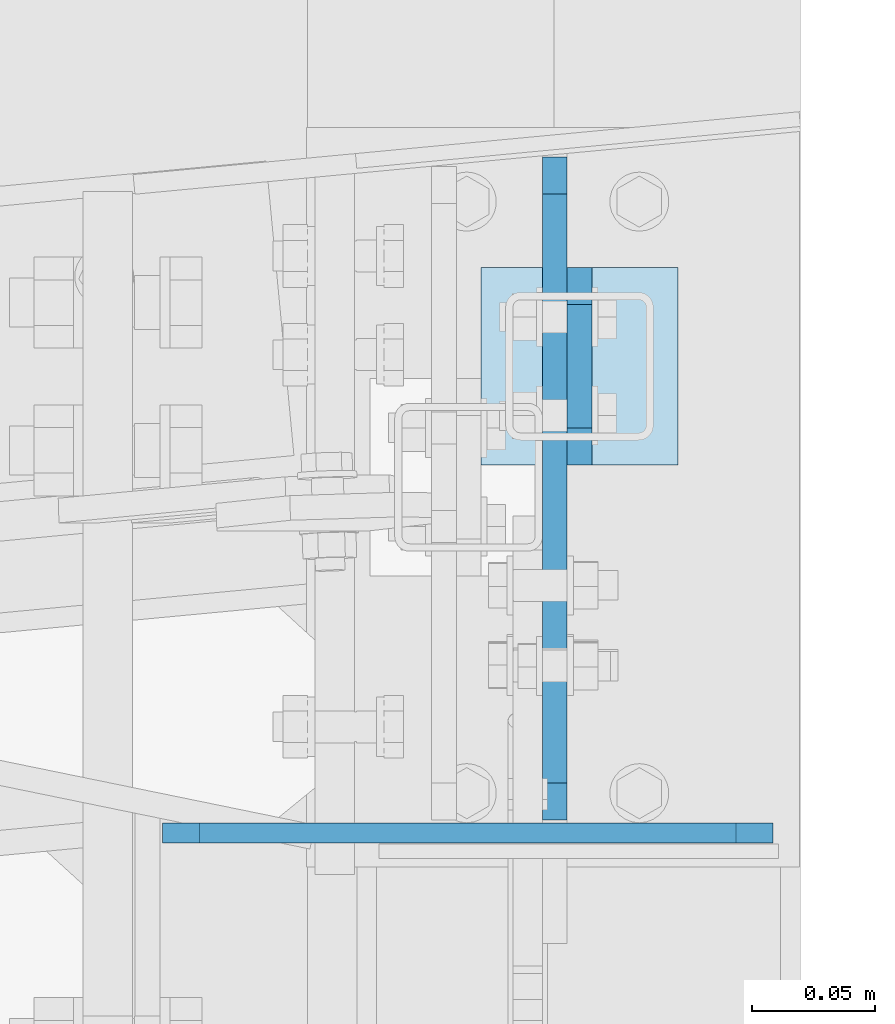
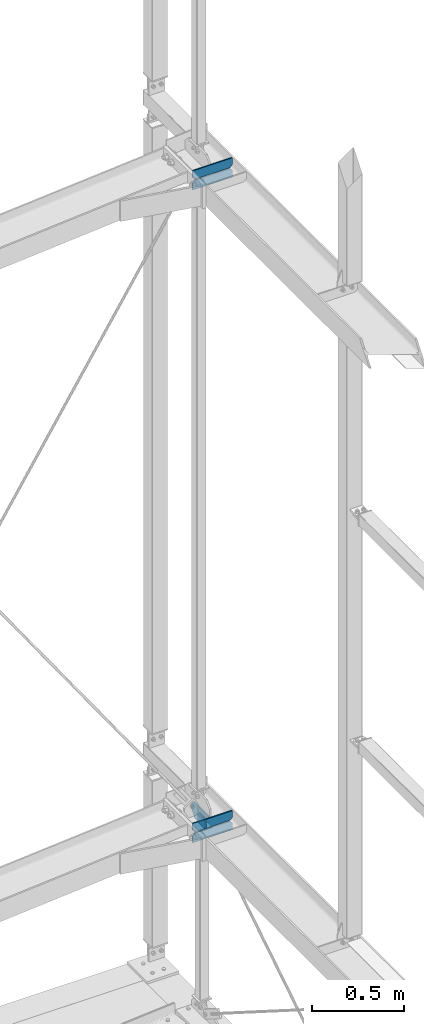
# One storey, part 191 of 271: 7 plates, 3 elements without a shape of their own.
"""IFC2X3 building model written with IfcOpenShell, lengths in millimetres."""

from ifc_helpers import new_model, si_unit, frame, origin_with_axes, place, context, subcontext, project, spatial, polyline, outline, extrude, material, type_object, element, aggregate, save


model = new_model("IFC2X3")

# Units and contexts
model_context = context("Model", 3, precision=1e-05, world=origin_with_axes())
body_context = subcontext(model_context, "Body", "Model", "MODEL_VIEW")
ifc_project = project(units=[si_unit("LENGTHUNIT", "METRE", prefix="MILLI"), si_unit("AREAUNIT", "SQUARE_METRE"), si_unit("VOLUMEUNIT", "CUBIC_METRE"), si_unit("MASSUNIT", "GRAM", prefix="KILO"), si_unit("TIMEUNIT", "SECOND"), si_unit("PLANEANGLEUNIT", "RADIAN"), si_unit("SOLIDANGLEUNIT", "STERADIAN"), si_unit("THERMODYNAMICTEMPERATUREUNIT", "DEGREE_CELSIUS"), si_unit("LUMINOUSINTENSITYUNIT", "LUMEN")], contexts=[model_context])

# Site, building, storey
site_placement = place(None, origin_with_axes())
site = spatial("IfcSite", under=ifc_project, at=site_placement, Name="Undefined", CompositionType="ELEMENT")
building_placement = place(site_placement, origin_with_axes())
building = spatial("IfcBuilding", under=site, at=building_placement, Name="Undefined", CompositionType="ELEMENT")
storey_placement = place(building_placement, origin_with_axes())
storey = spatial("IfcBuildingStorey", under=building, at=storey_placement, Name="Undefined", CompositionType="ELEMENT", Elevation=0.0)

# Assembly, plate
assembly_1_placement = place(storey_placement, origin_with_axes())
assembly_1 = element("IfcElementAssembly", 1, at=assembly_1_placement, inside=storey, AssemblyPlace="NOTDEFINED", PredefinedType="RIGID_FRAME")
ifc_material = material(Name="STEEL/S355JR")
plate_type_1 = type_object("IfcPlateType", Name="BL10*70", PredefinedType="NOTDEFINED")
plate_1_placement = place(assembly_1_placement, frame((12618.751374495, 4377.19355050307, 1296.04999995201), z_axis=(1.0, 0.0, 0.0), x_axis=(0.0, -0.707106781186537, 0.707106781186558)))
plate_1 = element("IfcPlate", 2, at=plate_1_placement, type_object=plate_type_1, material=ifc_material, Name="BLACHA", ObjectType="BL10*70", context=body_context, shape_type="SweptSolid", body=[
    extrude(outline(polyline([(0.0, 0.0), (21.2132034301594, 1.09139364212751e-11), (56.5685424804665, 35.3553390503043), (56.568542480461, 56.5685424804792), (17.6776695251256, 95.4594192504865), (-38.890872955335, 38.8908729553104), (0.0, 0.0)])), frame((0.0, 0.0, -5.0), z_axis=(0.0, 0.0, 1.0), x_axis=(1.0, 0.0, 0.0)), (0.0, 0.0, 1.0), 10.0),
])

assembly_2_placement = place(storey_placement, origin_with_axes())
assembly_2 = element("IfcElementAssembly", 3, at=assembly_2_placement, inside=storey, AssemblyPlace="NOTDEFINED", PredefinedType="RIGID_FRAME")
plate_type_2 = type_object("IfcPlateType", Name="BL10*100", PredefinedType="NOTDEFINED")
plate_2_placement = place(assembly_2_placement, frame((12608.751374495, 4422.05211975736, 1361.04999995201), z_axis=(1.0, 0.0, 0.0), x_axis=(0.0, -1.0, 0.0)))
plate_2 = element("IfcPlate", 4, at=plate_2_placement, type_object=plate_type_2, material=ifc_material, Name="BLACHA", ObjectType="BL10*100", context=body_context, shape_type="SweptSolid", body=[
    extrude(outline(polyline([(0.0, 15.0), (15.0, -1.59872115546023e-14), (254.0, -1.4210854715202e-14), (269.0, 15.0), (269.0, 60.0000000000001), (229.0, 100.0), (30.0, 100.0), (0.0, 60.0), (0.0, 15.0)])), frame((0.0, 0.0, -5.0), z_axis=(0.0, 0.0, 1.0), x_axis=(1.0, 0.0, 0.0)), (0.0, 0.0, 1.0), 10.0),
])

# Plate
plate_type_3 = type_object("IfcPlateType", Name="BL8*80", PredefinedType="NOTDEFINED")
plate_3_placement = place(assembly_1_placement, frame((12578.751374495, 4377.19355050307, 1237.04999995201), z_axis=(0.0, 0.0, 1.0), x_axis=(0.0, -1.0, 0.0)))
plate_3 = element("IfcPlate", 5, at=plate_3_placement, type_object=plate_type_3, material=ifc_material, Name="BLACHA", ObjectType="BL8*80", context=body_context, shape_type="SweptSolid", body=[
    extrude(outline(polyline([(0.0, 0.0), (80.0, 0.0), (80.0, 80.0), (0.0, 80.0), (0.0, 0.0)])), frame((0.0, 0.0, -4.0), z_axis=(0.0, 0.0, 1.0), x_axis=(1.0, 0.0, 0.0)), (0.0, 0.0, 1.0), 8.0),
])

aggregate(assembly_1, [plate_3, plate_1])

plate_type_4 = type_object("IfcPlateType", Name="BL8*60", PredefinedType="NOTDEFINED")
plate_4_placement = place(assembly_2_placement, frame((12449.5756869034, 4147.85328603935, 1301.04999995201), z_axis=(0.0, 1.0, 0.0), x_axis=(0.0, 0.0, 1.0)))
plate_4 = element("IfcPlate", 6, at=plate_4_placement, type_object=plate_type_4, material=ifc_material, Name="BLACHA", ObjectType="BL8*60", context=body_context, shape_type="SweptSolid", body=[
    extrude(outline(polyline([(0.0, 0.0), (45.0, 0.0), (60.0, 15.0), (60.0, 232.600006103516), (45.0, 247.600006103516), (0.0, 247.600006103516), (0.0, 0.0)])), frame((0.0, 0.0, -4.0), z_axis=(0.0, 0.0, 1.0), x_axis=(1.0, 0.0, 0.0)), (0.0, 0.0, 1.0), 8.0),
])

plate_5_placement = place(assembly_2_placement, frame((12449.5756869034, 4147.85328603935, 1427.64999985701), z_axis=(0.0, -1.0, 0.0), x_axis=(0.0, 0.0, -1.0)))
plate_5 = element("IfcPlate", 7, at=plate_5_placement, type_object=plate_type_4, material=ifc_material, Name="BLACHA", ObjectType="BL8*60", context=body_context, shape_type="SweptSolid", body=[
    extrude(outline(polyline([(0.0, 0.0), (45.0, 0.0), (60.0, 15.0), (60.0, 232.600006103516), (45.0, 247.600006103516), (0.0, 247.600006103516), (0.0, 0.0)])), frame((0.0, 0.0, -4.0), z_axis=(0.0, 0.0, 1.0), x_axis=(1.0, 0.0, 0.0)), (0.0, 0.0, 1.0), 8.0),
])

aggregate(assembly_2, [plate_2, plate_4, plate_5])

# Assembly, plates
assembly_3_placement = place(storey_placement, origin_with_axes())
assembly_3 = element("IfcElementAssembly", 8, at=assembly_3_placement, inside=storey, AssemblyPlace="NOTDEFINED", PredefinedType="RIGID_FRAME")
plate_6_placement = place(assembly_3_placement, frame((12449.5756869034, 4147.85328603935, 5621.04999995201), z_axis=(0.0, 1.0, 0.0), x_axis=(0.0, 0.0, 1.0)))
plate_6 = element("IfcPlate", 9, at=plate_6_placement, type_object=plate_type_4, material=ifc_material, Name="BLACHA", ObjectType="BL8*60", context=body_context, shape_type="SweptSolid", body=[
    extrude(outline(polyline([(0.0, 0.0), (45.0, 0.0), (60.0, 15.0), (60.0, 232.600006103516), (45.0, 247.600006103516), (0.0, 247.600006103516), (0.0, 0.0)])), frame((0.0, 0.0, -4.0), z_axis=(0.0, 0.0, 1.0), x_axis=(1.0, 0.0, 0.0)), (0.0, 0.0, 1.0), 8.0),
])
plate_7_placement = place(assembly_3_placement, frame((12449.5756869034, 4147.85328603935, 5747.64999985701), z_axis=(0.0, -1.0, 0.0), x_axis=(0.0, 0.0, -1.0)))
plate_7 = element("IfcPlate", 10, at=plate_7_placement, type_object=plate_type_4, material=ifc_material, Name="BLACHA", ObjectType="BL8*60", context=body_context, shape_type="SweptSolid", body=[
    extrude(outline(polyline([(0.0, 0.0), (45.0, 0.0), (60.0, 15.0), (60.0, 232.600006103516), (45.0, 247.600006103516), (0.0, 247.600006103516), (0.0, 0.0)])), frame((0.0, 0.0, -4.0), z_axis=(0.0, 0.0, 1.0), x_axis=(1.0, 0.0, 0.0)), (0.0, 0.0, 1.0), 8.0),
])
aggregate(assembly_3, [plate_6, plate_7])

save(model, "model.ifc")
